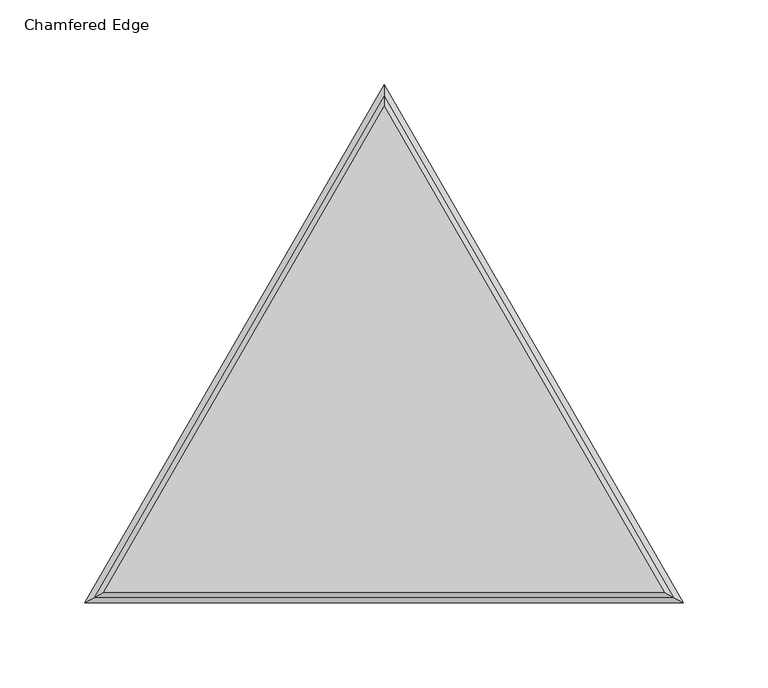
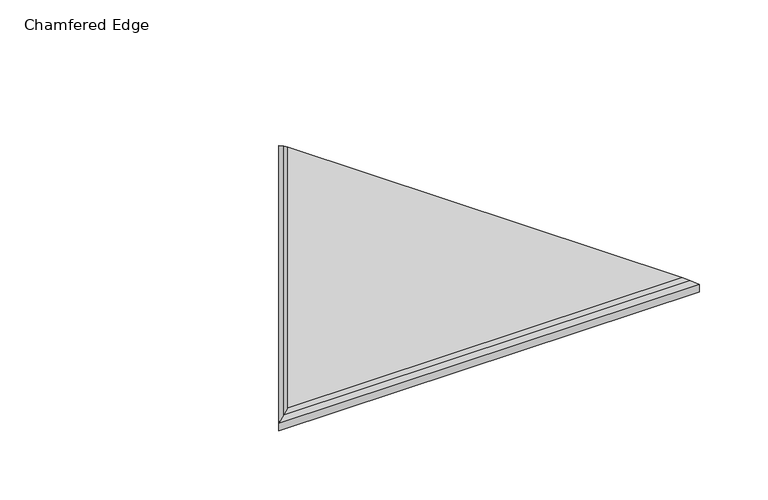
"""IFC4 building model written with IfcOpenShell, lengths in millimetres: proxy geometry, FilzFelt_Triangle_60_Block : Chamfered Edge."""

import ifcopenshell
import ifcopenshell.guid

model = None  # the IFC model being written
_history = None  # IfcOwnerHistory: only IFC2X3 demands one
_inside = {}  # id of a spatial element -> (the spatial element, [elements in it])
_under = {}  # id of a project, library or spatial element -> (it, [spatial elements below it])
_declared = {}  # id of a project -> (the project, [libraries it declares])
_typed = {}  # id of a type object -> (the type object, [elements of that type])
_made_of = {}  # id of a material, layer set ... -> (it, [elements and type objects made of it])


def new_model(schema):
    """Start an empty IFC model of exactly this schema.

    Asked for "IFC4X3", IfcOpenShell would pick the latest addendum, in which some entities
    have other attributes; the version numbers below select the first issue.
    IFC2X3 requires an IfcOwnerHistory on every rooted entity: one is made here for all.
    """
    global model, _history
    if schema == "IFC4X3":
        model = ifcopenshell.file(schema_version=(4, 3, 0, 0))
    else:
        model = ifcopenshell.file(schema=schema)
    _inside.clear()
    _under.clear()
    _declared.clear()
    _typed.clear()
    _made_of.clear()
    _history = None
    if model.schema == "IFC2X3":
        org = make("IfcOrganization", Name="unknown")
        user = make(
            "IfcPersonAndOrganization",
            ThePerson=make("IfcPerson", FamilyName="unknown"),
            TheOrganization=org,
        )
        app = make(
            "IfcApplication",
            ApplicationDeveloper=org,
            Version="unknown",
            ApplicationFullName="unknown",
            ApplicationIdentifier="unknown",
        )
        _history = make(
            "IfcOwnerHistory",
            OwningUser=user,
            OwningApplication=app,
            ChangeAction="ADDED",
            CreationDate=0,
        )
    return model


def make(cls, **values):
    """One entity of the class cls with the attributes given. An attribute that is None is left unset."""
    return model.create_entity(
        cls, **{name: value for name, value in values.items() if value is not None}
    )


def rooted(cls, **values):
    """An entity with a GlobalId (a new one), such as an element, a storey or a relation."""
    return make(cls, GlobalId=ifcopenshell.guid.new(), OwnerHistory=_history, **values)


def si_unit(unit_type, name, prefix=None):
    """IfcSIUnit, for example si_unit("LENGTHUNIT", "METRE", prefix="MILLI")."""
    return make("IfcSIUnit", UnitType=unit_type, Prefix=prefix, Name=name)


def assignment(units):
    """IfcUnitAssignment: the units of a project."""
    return None if units is None else make("IfcUnitAssignment", Units=units)


def point(xyz):
    """IfcCartesianPoint."""
    return None if xyz is None else make("IfcCartesianPoint", Coordinates=xyz)


def direction(xyz):
    """IfcDirection."""
    return None if xyz is None else make("IfcDirection", DirectionRatios=xyz)


def frame(location, z_axis=None, x_axis=None):
    """IfcAxis2Placement3D, a coordinate frame: its origin and axes. An axis left out is left unset."""
    return make(
        "IfcAxis2Placement3D",
        Location=point(location),
        Axis=direction(z_axis),
        RefDirection=direction(x_axis),
    )


def origin():
    """The frame at (0, 0, 0) with its axes left unset."""
    return frame((0.0, 0.0, 0.0))


def place(relative_to, where):
    """IfcLocalPlacement: puts the frame where relative to a parent placement (None: the world)."""
    return make(
        "IfcLocalPlacement", PlacementRelTo=relative_to, RelativePlacement=where
    )


def context(
    kind, dimensions, precision=None, world=None, true_north=None, identifier=None
):
    """IfcGeometricRepresentationContext, for example the 3D "Model" context."""
    return make(
        "IfcGeometricRepresentationContext",
        ContextIdentifier=identifier,
        ContextType=kind,
        CoordinateSpaceDimension=dimensions,
        Precision=precision,
        WorldCoordinateSystem=world,
        TrueNorth=true_north,
    )


def project(units=None, contexts=None):
    """IfcProject with its units and contexts."""
    return rooted(
        "IfcProject",
        Name="project",
        RepresentationContexts=contexts,
        UnitsInContext=assignment(units),
    )


def spatial(cls, under=None, at=None, **own):
    """A site, building, storey or space (cls), placed at a placement, below another one or the project."""
    s = rooted(cls, ObjectPlacement=at, **own)
    if under is not None:
        _under.setdefault(under.id(), (under, []))[1].append(s)
    return s


def faces_of(points, faces, orient=None, outer=None):
    """IfcFace entities. A face is a list of loops; a loop is a list of indices into points, from 0.

    orient and outer hold one flag for each loop. By default every Orientation is true, the
    first loop of a face is its IfcFaceOuterBound and the others are IfcFaceBound.
    """
    made = []
    for i, loops in enumerate(faces):
        bounds = []
        for j, loop in enumerate(loops):
            is_outer = j == 0 if outer is None else outer[i][j]
            bounds.append(
                make(
                    "IfcFaceOuterBound" if is_outer else "IfcFaceBound",
                    Bound=make("IfcPolyLoop", Polygon=[points[k] for k in loop]),
                    Orientation=True if orient is None else orient[i][j],
                )
            )
        made.append(make("IfcFace", Bounds=bounds))
    return made


def faceted_brep(points, faces, orient=None, outer=None, voids=None):
    """IfcFacetedBrep: a solid bounded by flat faces; with voids (closed shells), ...WithVoids."""
    shared = [point(p) for p in points]
    hull = make("IfcClosedShell", CfsFaces=faces_of(shared, faces, orient, outer))
    if voids is None:
        return make("IfcFacetedBrep", Outer=hull)
    return make(
        "IfcFacetedBrepWithVoids",
        Outer=hull,
        Voids=[
            make(cls, CfsFaces=faces_of(shared, fs, o, b)) for cls, fs, o, b in voids
        ],
    )


def shape(context_of_items, identifier, shape_type, items):
    """IfcShapeRepresentation: the items that make up one representation, for example the "Body"."""
    return make(
        "IfcShapeRepresentation",
        ContextOfItems=context_of_items,
        RepresentationIdentifier=identifier,
        RepresentationType=shape_type,
        Items=items,
    )


def source(mapping_origin, context_of_items, identifier, shape_type, items):
    """IfcRepresentationMap: a shape defined once, which mapped items show again and again."""
    return make(
        "IfcRepresentationMap",
        MappingOrigin=mapping_origin,
        MappedRepresentation=shape(context_of_items, identifier, shape_type, items),
    )


def transform(
    local_origin,
    x_axis=None,
    y_axis=None,
    z_axis=None,
    scale=None,
    scale2=None,
    scale3=None,
    uniform=True,
):
    """IfcCartesianTransformationOperator3D, or its non-uniform kind. x_axis, y_axis, z_axis: its Axis1, 2, 3."""
    if uniform:
        return make(
            "IfcCartesianTransformationOperator3D",
            Axis1=direction(x_axis),
            Axis2=direction(y_axis),
            LocalOrigin=point(local_origin),
            Scale=scale,
            Axis3=direction(z_axis),
        )
    return make(
        "IfcCartesianTransformationOperator3DnonUniform",
        Axis1=direction(x_axis),
        Axis2=direction(y_axis),
        LocalOrigin=point(local_origin),
        Scale=scale,
        Axis3=direction(z_axis),
        Scale2=scale2,
        Scale3=scale3,
    )


def mapped(mapping_source, mapping_target):
    """IfcMappedItem: shows the shape of a source again, moved by a transform."""
    return make(
        "IfcMappedItem", MappingSource=mapping_source, MappingTarget=mapping_target
    )


def made_of(thing, what):
    """Note that an element or type object is made of a material, layer set ...; save() writes the relation."""
    if what is not None:
        _made_of.setdefault(what.id(), (what, []))[1].append(thing)
    return thing


def element(
    cls,
    number,
    at=None,
    inside=None,
    cuts=None,
    type_object=None,
    material=None,
    context=None,
    identifier="Body",
    shape_type=None,
    held_by="IfcProductDefinitionShape",
    body=None,
    shapes=None,
    **own,
):
    """One element of the class cls, such as IfcWall. Its Tag is "e" and its number.

    at: its placement. inside: the storey or other place that contains it. cuts: it is an
    opening in that element (IfcRelVoidsElement). A single representation is given by context,
    identifier, shape_type and body (its items); several are given by shapes. held_by: the class
    of the entity that holds the representations. save() writes the other relations.
    """
    e = rooted(cls, Tag="e%d" % number, ObjectPlacement=at, **own)
    if body is not None:
        shapes = [shape(context, identifier, shape_type, body)]
    if shapes is not None:
        e.Representation = make(held_by, Representations=shapes)
    if inside is not None:
        _inside.setdefault(inside.id(), (inside, []))[1].append(e)
    if cuts is not None:
        rooted(
            "IfcRelVoidsElement", RelatingBuildingElement=cuts, RelatedOpeningElement=e
        )
    if type_object is not None:
        _typed.setdefault(type_object.id(), (type_object, []))[1].append(e)
    return made_of(e, material)


def aggregate(whole, parts):
    """IfcRelAggregates: a whole, such as a stair, and the parts it consists of."""
    return rooted("IfcRelAggregates", RelatingObject=whole, RelatedObjects=parts)


def save(model, path):
    """Write the relations noted so far, then the file.

    IfcRelAggregates (storeys below a building ...), IfcRelContainedInSpatialStructure (elements
    in a storey), IfcRelDefinesByType, IfcRelAssociatesMaterial and IfcRelDeclares: one each for
    every whole, place, type object, material and project.
    """
    for whole, parts in _under.values():
        aggregate(whole, parts)
    for where, things in _inside.values():
        rooted(
            "IfcRelContainedInSpatialStructure",
            RelatedElements=things,
            RelatingStructure=where,
        )
    for kind, things in _typed.values():
        rooted("IfcRelDefinesByType", RelatedObjects=things, RelatingType=kind)
    for what, things in _made_of.values():
        rooted("IfcRelAssociatesMaterial", RelatedObjects=things, RelatingMaterial=what)
    for by, libraries in _declared.values():
        rooted("IfcRelDeclares", RelatingContext=by, RelatedDefinitions=libraries)
    model.write(path)


def chamfered_edge_ee7d04d6(model_context):
    return source(origin(), model_context, "Body", "Brep", [
        faceted_brep([(-170.3695349, -149.1265625, 10.0210937), (0.0, 145.9621279, 10.0210937), (170.3695349, -149.1265625, 10.0210937), (0.0, 140.0090029, 12.9976563), (-165.2139774, -146.15, 12.9976563), (165.2139774, -146.15, 12.9976563)], [[[0, 1, 2]], [[3, 4, 5]], [[3, 1, 0, 4]], [[1, 3, 5, 2]], [[2, 5, 4, 0]]]),
        faceted_brep([(176.2125, -152.5, 0.0), (-176.2125, -152.5, 0.0), (0.0, 152.7090029, 0.0), (0.0, 145.9621279, 10.0210937), (-170.3695349, -149.1265625, 10.0210937), (170.3695349, -149.1265625, 10.0210937), (176.2125, -152.5, 6.6476563), (-176.2125, -152.5, 6.6476563), (0.0, 152.7090029, 6.6476563)], [[[0, 1, 2]], [[3, 4, 5]], [[1, 0, 6, 7]], [[2, 1, 7, 8]], [[0, 2, 8, 6]], [[3, 8, 7, 4]], [[8, 3, 5, 6]], [[6, 5, 4, 7]]]),
    ])


if __name__ == "__main__":
    model = new_model("IFC4")
    model_context = context("Model", 3, world=origin())
    ifc_project = project(units=[si_unit("LENGTHUNIT", "METRE", prefix="MILLI")], contexts=[model_context])
    site = spatial("IfcSite", under=ifc_project)
    building = spatial("IfcBuilding", under=site)
    placement = place(None, origin())
    chamfered_edge_shape = chamfered_edge_ee7d04d6(model_context)
    element("IfcBuildingElementProxy", 1, Name="FilzFelt_Triangle_60_Block : Chamfered Edge", ObjectType="FilzFelt_Triangle_60_Block : Chamfered Edge", at=placement, inside=building, context=model_context, shape_type="MappedRepresentation", body=[
        mapped(chamfered_edge_shape, transform((0.0, 0.0, 0.0), x_axis=(1.0, 0.0, 0.0), y_axis=(0.0, 1.0, 0.0), z_axis=(0.0, 0.0, 1.0))),
    ])
    save(model, "model.ifc")
